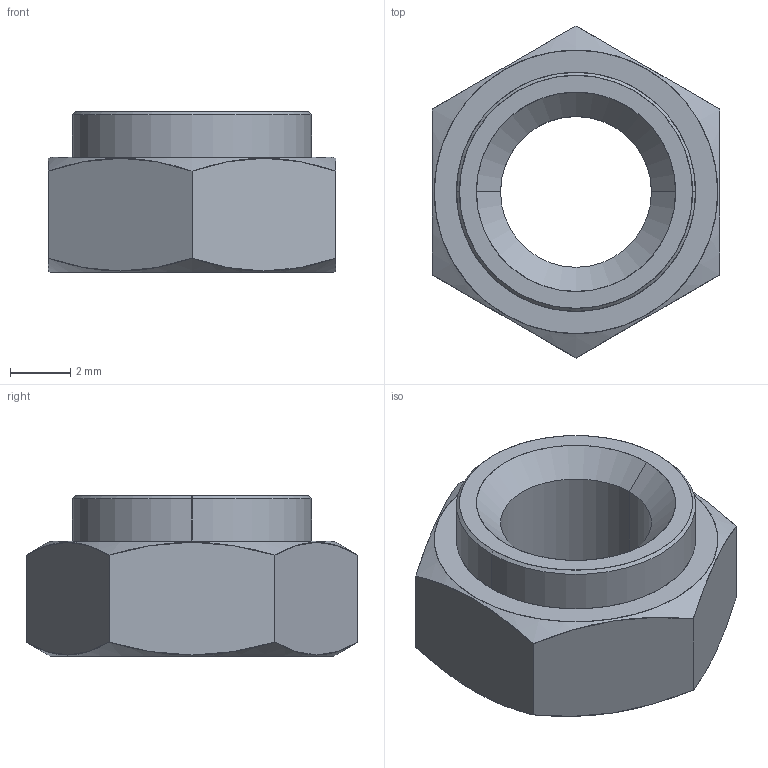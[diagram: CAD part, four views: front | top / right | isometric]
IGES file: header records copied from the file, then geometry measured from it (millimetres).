
Start section: SolidWorks IGES file using analytic representation for surfaces
Global section: file name: C:\Users\liam_\OneDrive\Desktop\Work\Mat Davis Pending 20181125\automotion\P SERIES\P0827.ZP_v2\P0827.ZP_v2_20181231_IGES\P0827.050-20G-ZP.igs; native system: SolidWorks 2017; preprocessor: SolidWorks 2017; author: liam_; date: 181231.110540; units: millimetre
Bounding box: 9.52 x 10.99 x 5.31 mm (x, y, z)
Surface area: 340.4 mm2 (no closed solid volume)
Topology: 0 solids, 0 shells, 23 faces, 376 edges, 376 vertices
Faces by surface type: revolution 14, bspline 9
